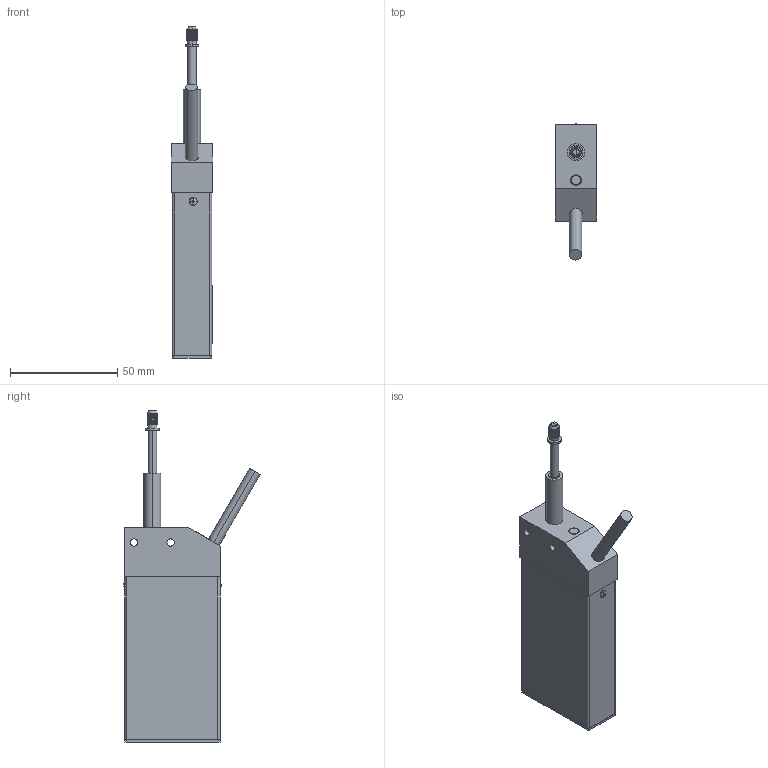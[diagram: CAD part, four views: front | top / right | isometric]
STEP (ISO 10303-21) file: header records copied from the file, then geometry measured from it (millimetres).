
FILE_DESCRIPTION (( 'STEP AP214' ), '1' );
FILE_NAME ('ﾋﾈﾐ-15.STEP', '2017-05-23T08:26:13', ( '' ), ( '' ), 'SwSTEP 2.0', 'SolidWorks 2013', '' );
FILE_SCHEMA (( 'AUTOMOTIVE_DESIGN' ));
Length unit declared in the file: millimetre
Products named in the file (1): ﾋﾈﾐ-15
Bounding box: 19.5 x 63.58 x 154.82 mm (x, y, z)
Volume: 31944.8 mm3; surface area: 37910.7 mm2
Topology: 77 solids, 77 shells, 1873 faces, 5353 edges, 3527 vertices
Faces by surface type: plane 653, cylinder 404, bspline 327, sphere 238, cone 171, torus 80
Entity records: 101498 total; most frequent: CARTESIAN_POINT 35646, ORIENTED_EDGE 10010, DIRECTION 7890, EDGE_CURVE 5005, VERTEX_POINT 3319, AXIS2_PLACEMENT_3D 2877, VECTOR 2136, LINE 2136
